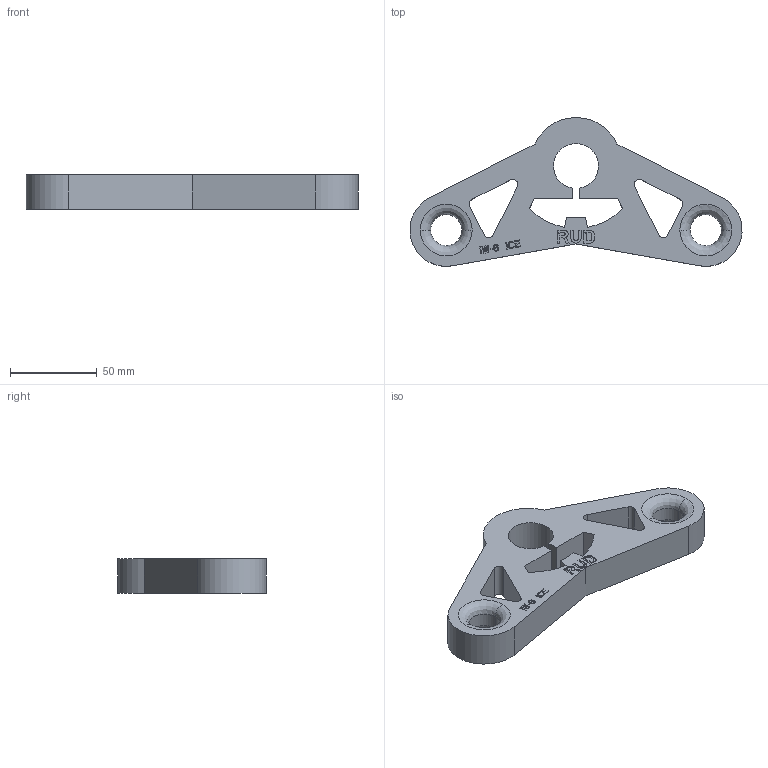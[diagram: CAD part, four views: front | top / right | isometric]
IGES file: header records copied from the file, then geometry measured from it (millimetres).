
Start section:  PTC IGES file: IW-8_7904370_M34652-P-2.igs
Global section: file name: IW-8_7904370_M34652-P-2.igs; native system: Pro/ENGINEER by Parametric Technology Corporation; preprocessor: 2010140; author: Andreas.Wendler; organization: Unknown; date: 20150518.081544; units: millimetre
Bounding box: 191.89 x 86 x 20 mm (x, y, z)
Volume: 149573.1 mm3; surface area: 34296.6 mm2
Topology: 1 solids, 1 shells, 238 faces, 664 edges, 440 vertices
Faces by surface type: bspline 204, revolution 34
